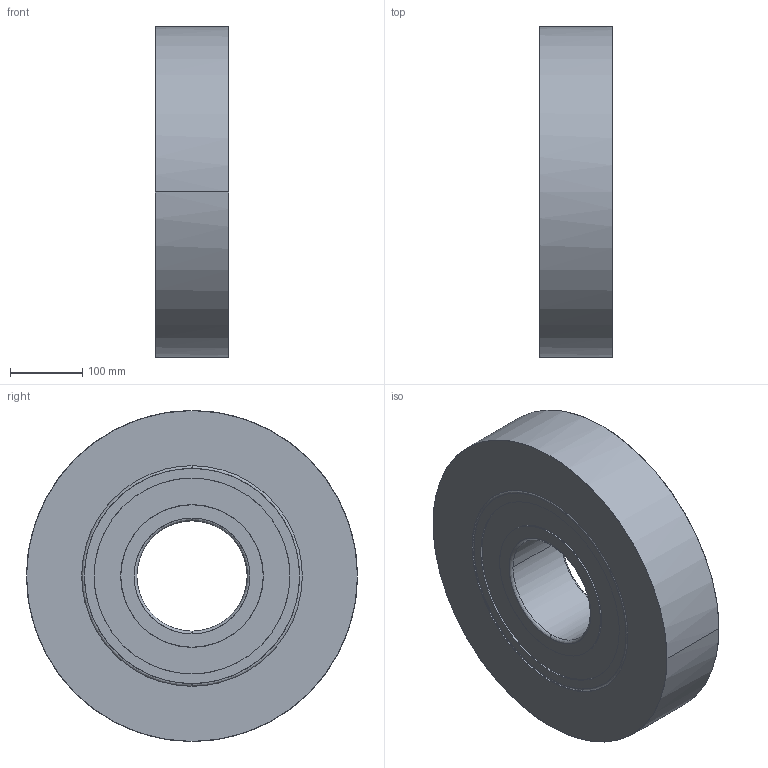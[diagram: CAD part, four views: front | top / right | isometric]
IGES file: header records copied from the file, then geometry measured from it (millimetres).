
Global section: native system: Kubotek KeyCreator; preprocessor: KCM Version 1.1.1442.0; author: KeyCreator User; organization: Self; date: 20170714.085848; units: inch
Bounding box: 101.6 x 457.2 x 457.2 mm (x, y, z)
Surface area: 503908.1 mm2 (no closed solid volume)
Topology: 0 solids, 0 shells, 32 faces, 208 edges, 208 vertices
Faces by surface type: bspline 32
